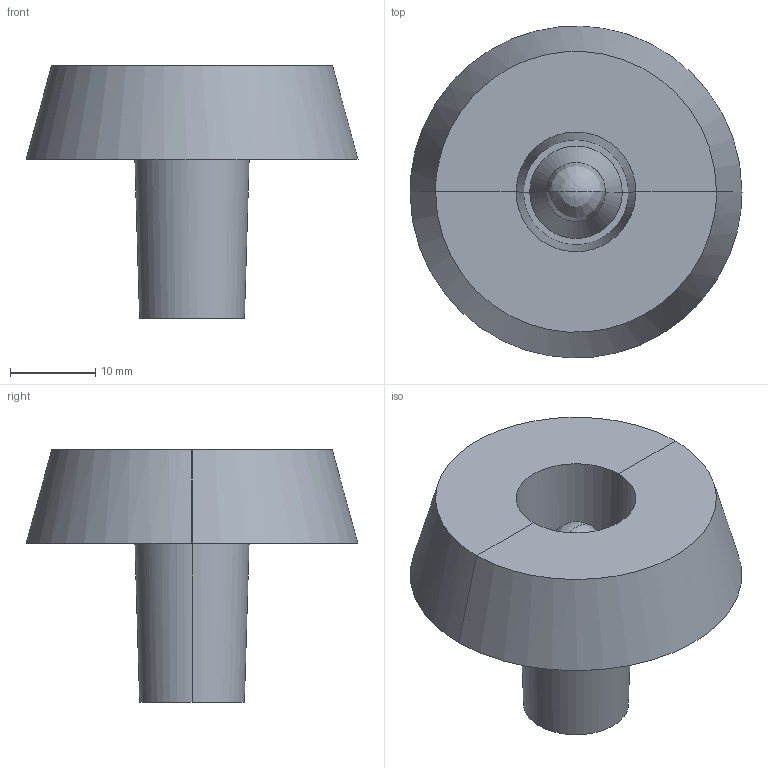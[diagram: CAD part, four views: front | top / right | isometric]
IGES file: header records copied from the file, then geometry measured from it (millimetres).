
Global section: file name: C:\Users\utente\Desktop\DANESE RG\3D Danese\AMAMI\amami.igs; native system: Rhinoceros ( Mar  9 2011 ); preprocessor: Trout Lake IGES 012 Mar  9 2011; date: 170410.125112; units: millimetre
Bounding box: 39 x 38.98 x 29.65 mm (x, y, z)
Surface area: 4051.4 mm2 (no closed solid volume)
Topology: 0 solids, 0 shells, 40 faces, 160 edges, 148 vertices
Faces by surface type: bspline 40
